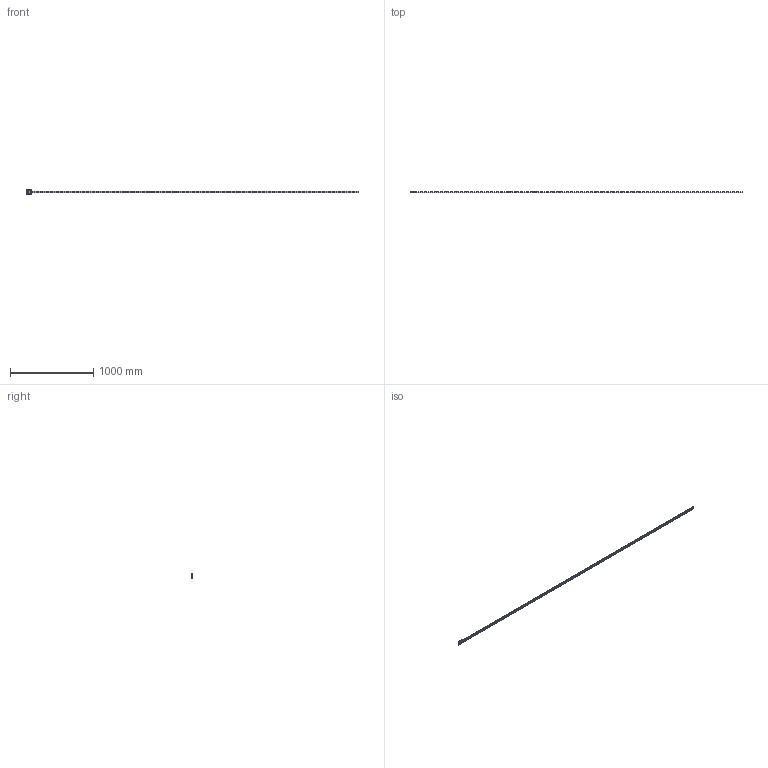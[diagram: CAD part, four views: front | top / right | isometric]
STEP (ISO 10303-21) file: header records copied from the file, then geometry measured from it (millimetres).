
FILE_DESCRIPTION( ( 'STEP AP203' ), '1' );
FILE_NAME( 'p:/temp/worker_9/temp/exporttempdir_6076_250_abius/format_0/FDI12 84495NV_4000-0-0.stp', '2021-02-04T02:06:55', ( 'License CC BY-ND 4.0' ), ( 'CADENAS' ), ' ', 'PARTsolutions', ' ' );
FILE_SCHEMA( ( 'CONFIG_CONTROL_DESIGN' ) );
Length unit declared in the file: millimetre
Products named in the file (5): FDI12 84495NV_4000-0-0; _FDI_12R 4000-0-0; _FDI_12R Slider_1; _FDI_12R 4000-0-0_2; _FDI_12R Slider_2
Assembly tree (4 placements, depth 2):
  FDI12 84495NV_4000-0-0
    _FDI_12R 4000-0-0
    _FDI_12R Slider_1
    _FDI_12R 4000-0-0_2
    _FDI_12R Slider_2
Bounding box: 4000 x 19 x 48.8 mm (x, y, z)
Volume: 1197047.3 mm3; surface area: 495345.2 mm2
Topology: 4 solids, 4 shells, 842 faces, 2117 edges, 1473 vertices
Faces by surface type: cylinder 457, plane 360, cone 24, torus 1
Full cylindrical faces by diameter (mm): 2.459 x8, 3.242 x4, 3.4 x200, 6 x200, 8 x1
Entity records: 22737 total; most frequent: DIRECTION 4065, CARTESIAN_POINT 3717, ORIENTED_EDGE 2910, EDGE_LOOP 1875, AXIS2_PLACEMENT_3D 1800, EDGE_CURVE 1455, FACE_OUTER_BOUND 1255, VERTEX_POINT 1254
